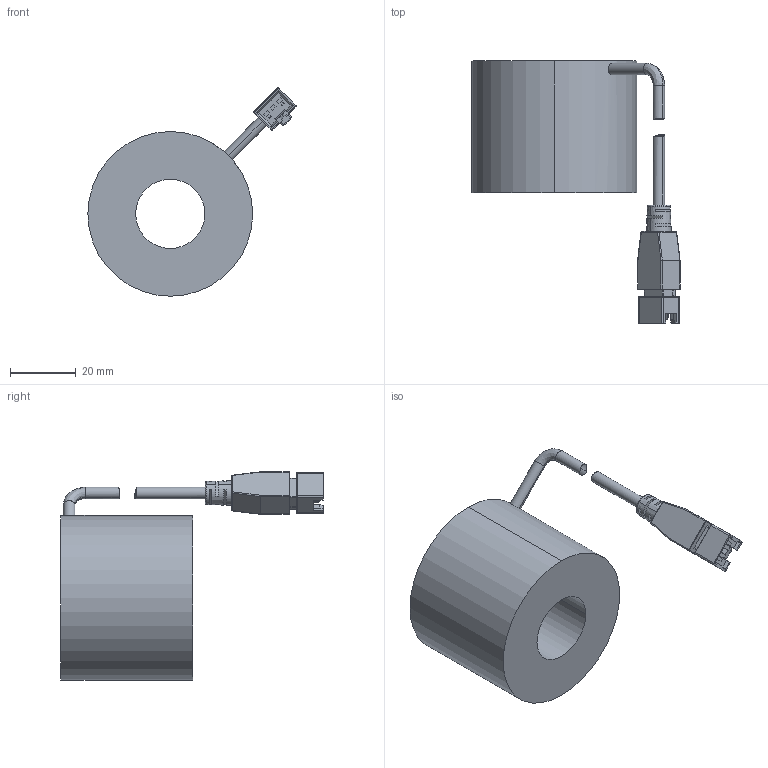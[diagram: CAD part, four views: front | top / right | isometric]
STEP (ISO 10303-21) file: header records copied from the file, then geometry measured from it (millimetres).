
FILE_DESCRIPTION((''),'2;1');
FILE_NAME('LS-LGSH-50','2019-07-30T',('LumaSpec Vision'),('LumaSpec Vision'),'PRO/ENGINEER BY PARAMETRIC TECHNOLOGY CORPORATION, 2010100','PRO/ENGINEER BY PARAMETRIC TECHNOLOGY CORPORATION, 2010100','');
FILE_SCHEMA(('CONFIG_CONTROL_DESIGN'));
Length unit declared in the file: millimetre
Products named in the file (7): P-FR-50-JIANYI3D-6256_AF0; BODY_12; LINE_TOU; ASSY_ASM; P-FR-50-JIANYI3D-2732_AF0_ASM; _P-FR-50-JIANYI3D; P-FR-50-JIANYI3D_ASM
Assembly tree (6 placements, depth 4):
  P-FR-50-JIANYI3D_ASM
    P-FR-50-JIANYI3D-2732_AF0_ASM
      P-FR-50-JIANYI3D-6256_AF0
      ASSY_ASM
        BODY_12
        LINE_TOU
    _P-FR-50-JIANYI3D
Bounding box: 63.19 x 79.6 x 63.27 mm (x, y, z)
Volume: 67022.9 mm3; surface area: 14821.5 mm2
Topology: 3 solids, 3 shells, 255 faces, 653 edges, 394 vertices
Faces by surface type: plane 129, cylinder 80, sphere 16, cone 12, bspline 10, torus 8
Entity records: 7935 total; most frequent: CARTESIAN_POINT 1702, DIRECTION 1301, ORIENTED_EDGE 1254, EDGE_CURVE 627, AXIS2_PLACEMENT_3D 457, VERTEX_POINT 394, VECTOR 387, LINE 387
